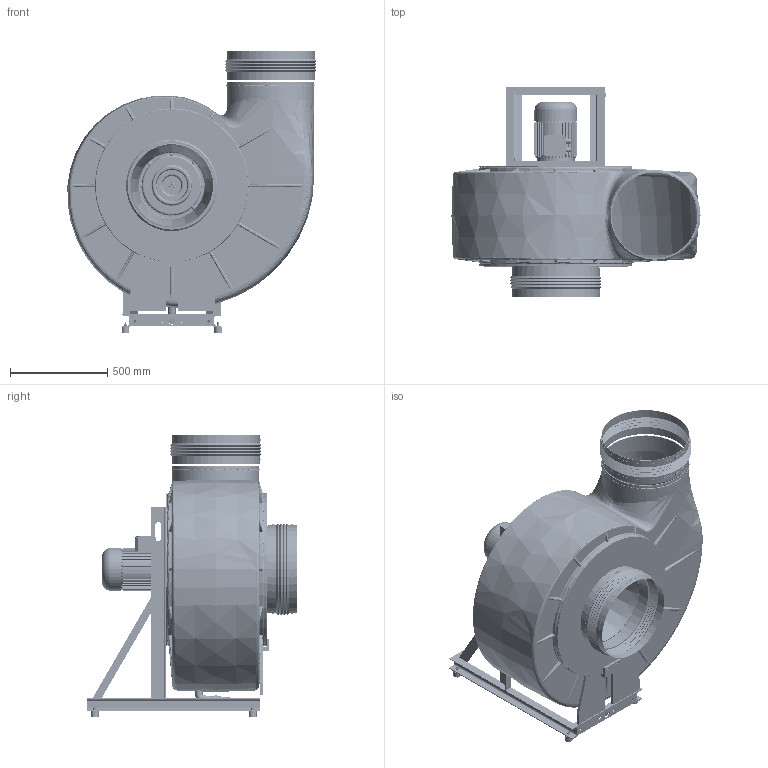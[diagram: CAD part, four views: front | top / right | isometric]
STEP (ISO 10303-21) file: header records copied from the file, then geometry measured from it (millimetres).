
FILE_DESCRIPTION( ( 'Unknown' ), '1' );
FILE_NAME( 'K:/HOME/HLT_CAD/Z/HF/3D/Zusammenstellung/HFR/HFR 15_17/HFR...-15D/DS_1/HFR_450-15D/GR360/HFR_450-15D_DS1_GR_360_112.stp', 'Unknown', ( 'Unknown' ), ( 'Unknown' ), 'PSStep 14.0', 'Unknown', ' ' );
FILE_SCHEMA( ( 'AUTOMOTIVE_DESIGN { 1 0 10303 214 1 1 1 1 }' ) );
Length unit declared in the file: millimetre
Products named in the file (36): HFR 450_GR; Ensat-Buchse-M8; Gehäuse 450_GR_Abgeschn; 5159_Kondensatablauf_355-500; Stopfen_G1-oa0; Rohr_Ø32; Verschlusskappe_Ø31,8; Schelle; 721100108-Winkel_90°-DN25_d=32; Schlauch_Ø32; 5155_Gehäusedeckel; GD_FL 450; ÜGD450; 5155_Rohr450; 5155_Rohr355; 5003_Man 450; 5003_Manschettenband_Ø450; 5003_4_Schelle_Ø450; 5341-Gestell; C-Channel 65x42-oa1; C-Channel 65x42-oa2; Angle 60x30x5-oa3; Angle 40x40x4-oa4; Angle 40x40x4-oa5; Angle 40x40x4-oa6; Angle 80x40x6-oa7; Angle 80x40x6-oa8; Angle 25x4-oa9; 5341_Gehäuseplatte-oa10; Assem1; 6611_Motorring_Bg100+112; Schwidä_40x30; 6kant_M8; 5200_Befestigungsklammer_HFR450; 5200_Stützplatte_HFR450_90°-180°-360°_DS1; B5_112a_2HIHI
Assembly tree (117 placements, depth 3):
  Assem1
    6611_Motorring_Bg100+112
    Schwidä_40x30  x4
    6kant_M8  x4
    5200_Befestigungsklammer_HFR450
    5200_Stützplatte_HFR450_90°-180°-360°_DS1  x2
    B5_112a_2HIHI
    HFR 450_GR
      Ensat-Buchse-M8  x72
      Gehäuse 450_GR_Abgeschn
    5159_Kondensatablauf_355-500
      Stopfen_G1-oa0
      Rohr_Ø32  x2
      Verschlusskappe_Ø31,8
      Schelle  x2
      721100108-Winkel_90°-DN25_d=32
      Schlauch_Ø32
    5003_Man 450  x2
      5003_Manschettenband_Ø450
      5003_4_Schelle_Ø450
    5155_Gehäusedeckel
      GD_FL 450
      ÜGD450
      5155_Rohr450
      5155_Rohr355
    5341-Gestell
      C-Channel 65x42-oa1
      C-Channel 65x42-oa2
      Angle 60x30x5-oa3
      Angle 40x40x4-oa4
      Angle 40x40x4-oa5
      Angle 40x40x4-oa6
      Angle 80x40x6-oa7
      Angle 80x40x6-oa8
      Angle 25x4-oa9
      5341_Gehäuseplatte-oa10
Bounding box: 1283.59 x 1083 x 1452 mm (x, y, z)
Volume: 42551038.1 mm3; surface area: 13489185 mm2
Topology: 114 solids, 114 shells, 3600 faces, 7319 edges, 4587 vertices
Faces by surface type: plane 1578, cylinder 1238, bspline 328, torus 241, cone 157, sphere 48, offset 10
Full cylindrical faces by diameter (mm): 6.647 x80, 8 x8, 8.376 x1, 9 x2, 10 x4, 10.5 x8, 11 x4, 12 x288, 13 x294, 14 x16, 14.5 x4, 16 x12, 17 x64, 22 x1, 23 x1, 24 x4, 25.6 x2, 28 x1, 28.4 x2, 31.8 x1, 32 x5, 33.6 x1, 34.8 x1, 35.244 x1, 36 x1, 38.2 x2, 40 x7, 95 x1, 102 x1, 110 x1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
Entity records: 160868 total; most frequent: CARTESIAN_POINT 81761, DIRECTION 12036, ORIENTED_EDGE 10242, EDGE_CURVE 5121, AXIS2_PLACEMENT_3D 5110, EDGE_LOOP 4003, VERTEX_POINT 3529, FACE_OUTER_BOUND 3405
